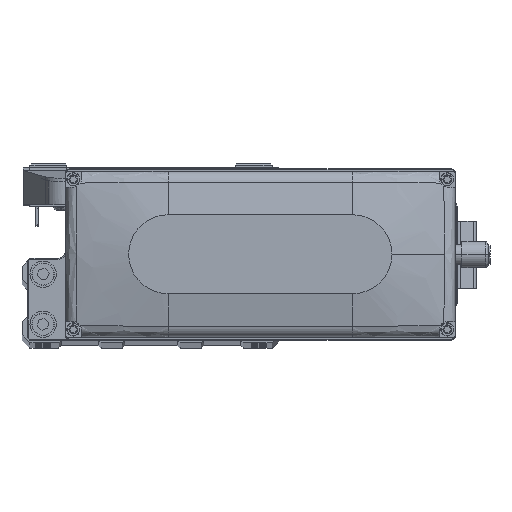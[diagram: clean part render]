
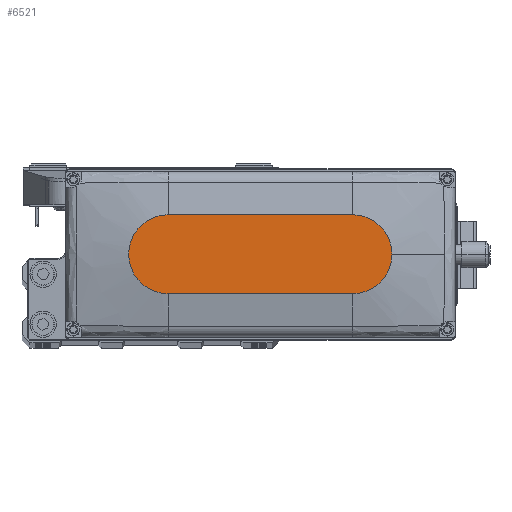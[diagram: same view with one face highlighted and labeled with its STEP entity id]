
A CAD part, top view. The second image highlights one B-rep face of the part: STEP entity #6521.
In plain terms, the highlighted planar face has unit normal (0, 0, 1).
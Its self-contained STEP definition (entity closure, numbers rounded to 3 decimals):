
#2749 = VERTEX_POINT ( 'NONE', #24233 ) ;
#2911 = AXIS2_PLACEMENT_3D ( 'NONE', #25077, #40125, #6356 ) ;
#3873 = VERTEX_POINT ( 'NONE', #37853 ) ;
#5349 = EDGE_CURVE ( 'NONE', #3873, #29201, #24253, .T. ) ;
#5539 = DIRECTION ( 'NONE',  ( -1., 0., 0. ) ) ;
#6356 = DIRECTION ( 'NONE',  ( 1., 0., 0. ) ) ;
#6405 = CIRCLE ( 'NONE', #33943, 15. ) ;
#6521 = ADVANCED_FACE ( 'NONE', ( #31102 ), #46176, .T. ) ;
#8260 = CARTESIAN_POINT ( 'NONE',  ( 50., 0., 35. ) ) ;
#10321 = CARTESIAN_POINT ( 'NONE',  ( 35., 0., 35. ) ) ;
#10837 = EDGE_LOOP ( 'NONE', ( #44424, #17860, #12662, #36856, #29269 ) ) ;
#12394 = CARTESIAN_POINT ( 'NONE',  ( 0., 0., 35. ) ) ;
#12542 = EDGE_CURVE ( 'NONE', #46883, #3873, #6405, .T. ) ;
#12662 = ORIENTED_EDGE ( 'NONE', *, *, #48262, .T. ) ;
#15004 = CARTESIAN_POINT ( 'NONE',  ( -35., 15., 35. ) ) ;
#16378 = CARTESIAN_POINT ( 'NONE',  ( 35., 0., 35. ) ) ;
#16867 = LINE ( 'NONE', #31882, #40761 ) ;
#17315 = EDGE_CURVE ( 'NONE', #29201, #2749, #24173, .T. ) ;
#17671 = VERTEX_POINT ( 'NONE', #40252 ) ;
#17860 = ORIENTED_EDGE ( 'NONE', *, *, #17315, .T. ) ;
#24173 = CIRCLE ( 'NONE', #2911, 15. ) ;
#24233 = CARTESIAN_POINT ( 'NONE',  ( -35., -15., 35. ) ) ;
#24253 = LINE ( 'NONE', #39315, #35511 ) ;
#25077 = CARTESIAN_POINT ( 'NONE',  ( -35., 0., 35. ) ) ;
#25342 = DIRECTION ( 'NONE',  ( 0., 0., 1. ) ) ;
#27428 = DIRECTION ( 'NONE',  ( 0., 0., 1. ) ) ;
#29201 = VERTEX_POINT ( 'NONE', #15004 ) ;
#29269 = ORIENTED_EDGE ( 'NONE', *, *, #12542, .T. ) ;
#31102 = FACE_OUTER_BOUND ( 'NONE', #10837, .T. ) ;
#31404 = DIRECTION ( 'NONE',  ( 0., 0., 1. ) ) ;
#31882 = CARTESIAN_POINT ( 'NONE',  ( -35., -15., 35. ) ) ;
#32164 = CIRCLE ( 'NONE', #38501, 15. ) ;
#33943 = AXIS2_PLACEMENT_3D ( 'NONE', #10321, #25342, #40381 ) ;
#34020 = AXIS2_PLACEMENT_3D ( 'NONE', #12394, #27428, #42494 ) ;
#35511 = VECTOR ( 'NONE', #5539, 1000. ) ;
#36856 = ORIENTED_EDGE ( 'NONE', *, *, #41935, .T. ) ;
#37853 = CARTESIAN_POINT ( 'NONE',  ( 35., 15., 35. ) ) ;
#38501 = AXIS2_PLACEMENT_3D ( 'NONE', #16378, #31404, #46479 ) ;
#39315 = CARTESIAN_POINT ( 'NONE',  ( -35., 15., 35. ) ) ;
#40125 = DIRECTION ( 'NONE',  ( 0., 0., 1. ) ) ;
#40252 = CARTESIAN_POINT ( 'NONE',  ( 35., -15., 35. ) ) ;
#40381 = DIRECTION ( 'NONE',  ( 1., 0., 0. ) ) ;
#40761 = VECTOR ( 'NONE', #46963, 1000. ) ;
#41935 = EDGE_CURVE ( 'NONE', #17671, #46883, #32164, .T. ) ;
#42494 = DIRECTION ( 'NONE',  ( 1., 0., 0. ) ) ;
#44424 = ORIENTED_EDGE ( 'NONE', *, *, #5349, .T. ) ;
#46176 = PLANE ( 'NONE',  #34020 ) ;
#46479 = DIRECTION ( 'NONE',  ( 1., 0., 0. ) ) ;
#46883 = VERTEX_POINT ( 'NONE', #8260 ) ;
#46963 = DIRECTION ( 'NONE',  ( 1., 0., 0. ) ) ;
#48262 = EDGE_CURVE ( 'NONE', #2749, #17671, #16867, .T. ) ;
